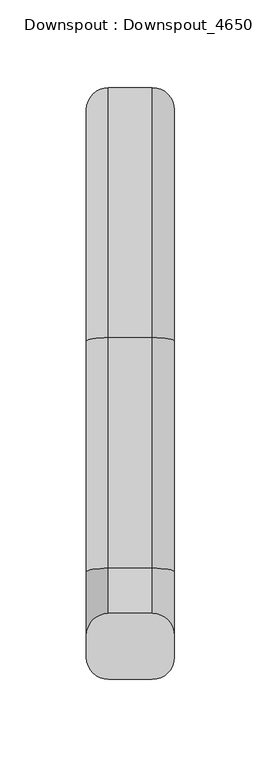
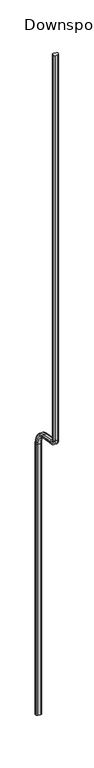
"""IFC4 building model written with IfcOpenShell, lengths in millimetres: proxy geometry, Downspout : Downspout_4650."""

from ifc_helpers import new_model, si_unit, point, frame, origin, place, context, project, spatial, polyline, circle_curve, ellipse_curve, trimmed, source, transform, mapped, element, save
from ifc_brep_helpers import plane_surface, cylinder_surface, revolved_surface, advanced_brep


def downspout_downspout_4650_cdd577da(model_context):
    return source(origin(), model_context, "Body", "AdvancedBrep", [
        advanced_brep(
        [(-12.7, -323.85, 7239.0), (12.7, -323.85, 7239.0), (25.4, -311.15, 7239.0), (25.4, -298.45, 7239.0), (12.7, -285.75, 7239.0), (-12.7, -285.75, 7239.0), (-25.4, -298.45, 7239.0), (-25.4, -311.15, 7239.0), (-12.7, -323.85, 3119.3010696), (12.7, -323.85, 3119.3010696), (25.4, -311.15, 3119.3010696), (25.4, -262.9402297, 3062.8546809), (25.4, -129.5527464, 3041.728179), (25.4, -6.35, 2897.4762969), (25.4, -6.35, 0.0), (25.4, 6.35, 0.0), (25.4, 6.35, 2897.4762969), (25.4, -127.5660287, 3054.271821), (25.4, -260.953512, 3075.3983229), (25.4, -298.45, 3119.3010696), (12.7, -285.75, 3119.3010696), (-12.7, -285.75, 3119.3010696), (-25.4, -298.45, 3119.3010696), (-25.4, -260.953512, 3075.3983229), (-25.4, -127.5660287, 3054.271821), (-25.4, 6.35, 2897.4762969), (-25.4, 6.35, 0.0), (-25.4, -6.35, 0.0), (-25.4, -6.35, 2897.4762969), (-25.4, -129.5527464, 3041.728179), (-25.4, -262.9402297, 3062.8546809), (-25.4, -311.15, 3119.3010696), (12.7, -264.9269474, 3050.311039), (-12.7, -264.9269474, 3050.311039), (12.7, -258.9667943, 3087.9419648), (-12.7, -258.9667943, 3087.9419648), (-12.7, -131.5394641, 3029.1845371), (12.7, -131.5394641, 3029.1845371), (12.7, -125.579311, 3066.8154629), (-12.7, -125.579311, 3066.8154629), (12.7, -19.05, 2897.4762969), (-12.7, -19.05, 2897.4762969), (12.7, 19.05, 2897.4762969), (-12.7, 19.05, 2897.4762969), (-12.7, -19.05, 0.0), (-12.7, 19.05, 0.0), (12.7, 19.05, 0.0), (12.7, -19.05, 0.0)],
        [
            (0, 1),
            (1, 2, circle_curve(frame((12.7, -311.15, 7239.0), z_axis=(0.0, 0.0, 1.0), x_axis=(1.0, 0.0, 0.0)), 12.7)),
            (2, 3),
            (3, 4, circle_curve(frame((12.7, -298.45, 7239.0), z_axis=(0.0, 0.0, 1.0), x_axis=(1.0, 0.0, 0.0)), 12.7)),
            (4, 5),
            (5, 6, circle_curve(frame((-12.7, -298.45, 7239.0), z_axis=(0.0, 0.0, 1.0), x_axis=(1.0, 0.0, 0.0)), 12.7)),
            (6, 7),
            (7, 0, circle_curve(frame((-12.7, -311.15, 7239.0), z_axis=(0.0, 0.0, 1.0), x_axis=(1.0, 0.0, 0.0)), 12.7)),
            (0, 8),
            (8, 9),
            (9, 1),
            (9, 10, circle_curve(frame((12.7, -311.15, 3119.3010696), z_axis=(0.0, 0.0, 1.0), x_axis=(1.0, 0.0, 0.0)), 12.7)),
            (10, 2),
            (10, 11, circle_curve(frame((25.4, -254.0, 3119.3010696), z_axis=(1.0, 0.0, 0.0), x_axis=(0.0, -1.0, 0.0)), 57.15)),
            (11, 12),
            (12, 13, circle_curve(frame((25.4, -152.4, 2897.4762969), z_axis=(-1.0, 0.0, 0.0), x_axis=(0.0, 0.15643446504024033, 0.9876883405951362)), 146.05)),
            (13, 14),
            (14, 15),
            (15, 16),
            (16, 17, circle_curve(frame((25.4, -152.4, 2897.4762969), z_axis=(1.0, 0.0, 0.0), x_axis=(0.0, 0.15643446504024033, 0.9876883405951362)), 158.75)),
            (17, 18),
            (18, 19, circle_curve(frame((25.4, -254.0, 3119.3010696), z_axis=(-1.0, 0.0, 0.0), x_axis=(0.0, -1.0, 0.0)), 44.45)),
            (19, 3),
            (19, 20, circle_curve(frame((12.7, -298.45, 3119.3010696), z_axis=(0.0, 0.0, 1.0), x_axis=(1.0, 0.0, 0.0)), 12.7)),
            (20, 4),
            (20, 21),
            (21, 5),
            (21, 22, circle_curve(frame((-12.7, -298.45, 3119.3010696), z_axis=(0.0, 0.0, 1.0), x_axis=(1.0, 0.0, 0.0)), 12.7)),
            (22, 6),
            (22, 23, circle_curve(frame((-25.4, -254.0, 3119.3010696), z_axis=(1.0, 0.0, 0.0), x_axis=(0.0, -1.0, 0.0)), 44.45)),
            (23, 24),
            (24, 25, circle_curve(frame((-25.4, -152.4, 2897.4762969), z_axis=(-1.0, 0.0, 0.0), x_axis=(0.0, 0.15643446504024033, 0.9876883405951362)), 158.75)),
            (25, 26),
            (26, 27),
            (27, 28),
            (28, 29, circle_curve(frame((-25.4, -152.4, 2897.4762969), z_axis=(1.0, 0.0, 0.0), x_axis=(0.0, 0.15643446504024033, 0.9876883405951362)), 146.05)),
            (29, 30),
            (30, 31, circle_curve(frame((-25.4, -254.0, 3119.3010696), z_axis=(-1.0, 0.0, 0.0), x_axis=(0.0, -1.0, 0.0)), 57.15)),
            (31, 7),
            (31, 8, circle_curve(frame((-12.7, -311.15, 3119.3010696), z_axis=(0.0, 0.0, 1.0), x_axis=(1.0, 0.0, 0.0)), 12.7)),
            (32, 9, circle_curve(frame((12.7, -254.0, 3119.3010696), z_axis=(-1.0, 0.0, 0.0), x_axis=(0.0, -1.0, 0.0)), 69.85)),
            (8, 33, circle_curve(frame((-12.7, -254.0, 3119.3010696), z_axis=(1.0, 0.0, 0.0), x_axis=(0.0, -1.0, 0.0)), 69.85)),
            (33, 32),
            (32, 11, circle_curve(frame((12.7, -262.9402297, 3062.8546809), z_axis=(0.0, -0.9876883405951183, 0.15643446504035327), x_axis=(1.0, 0.0, 0.0)), 12.7)),
            (34, 20, circle_curve(frame((12.7, -254.0, 3119.3010696), z_axis=(-1.0, 0.0, 0.0), x_axis=(0.0, -1.0, 0.0)), 31.75)),
            (18, 34, circle_curve(frame((12.7, -260.953512, 3075.3983229), z_axis=(0.0, -0.9876883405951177, 0.15643446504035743), x_axis=(1.0, 0.0, 0.0)), 12.7)),
            (35, 21, circle_curve(frame((-12.7, -254.0, 3119.3010696), z_axis=(-1.0, 0.0, 0.0), x_axis=(0.0, -1.0, 0.0)), 31.75)),
            (34, 35),
            (35, 23, circle_curve(frame((-12.7, -260.953512, 3075.3983229), z_axis=(0.0, -0.987688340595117, 0.1564344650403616), x_axis=(1.0, 0.0, 0.0)), 12.7)),
            (30, 33, circle_curve(frame((-12.7, -262.9402297, 3062.8546809), z_axis=(0.0, -0.987688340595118, 0.15643446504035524), x_axis=(1.0, 0.0, 0.0)), 12.7)),
            (33, 36),
            (36, 37),
            (37, 32),
            (37, 12, circle_curve(frame((12.7, -129.5527464, 3041.728179), z_axis=(0.0, -0.9876883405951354, 0.15643446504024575), x_axis=(1.0, 0.0, 0.0)), 12.7)),
            (17, 38, circle_curve(frame((12.7, -127.5660287, 3054.271821), z_axis=(0.0, -0.9876883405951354, 0.15643446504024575), x_axis=(1.0, 0.0, 0.0)), 12.7)),
            (38, 34),
            (38, 39),
            (39, 35),
            (39, 24, circle_curve(frame((-12.7, -127.5660287, 3054.271821), z_axis=(0.0, -0.9876883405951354, 0.15643446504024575), x_axis=(1.0, 0.0, 0.0)), 12.7)),
            (29, 36, circle_curve(frame((-12.7, -129.5527464, 3041.728179), z_axis=(0.0, -0.9876883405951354, 0.15643446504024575), x_axis=(1.0, 0.0, 0.0)), 12.7)),
            (40, 37, circle_curve(frame((12.7, -152.4, 2897.4762969), z_axis=(1.0, 0.0, 0.0), x_axis=(0.0, 0.15643446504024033, 0.9876883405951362)), 133.35)),
            (36, 41, circle_curve(frame((-12.7, -152.4, 2897.4762969), z_axis=(-1.0, 0.0, 0.0), x_axis=(0.0, 0.15643446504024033, 0.9876883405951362)), 133.35)),
            (41, 40),
            (40, 13, circle_curve(frame((12.7, -6.35, 2897.4762969), z_axis=(0.0, 0.0, 1.0), x_axis=(1.0, 0.0, 0.0)), 12.7)),
            (42, 38, circle_curve(frame((12.7, -152.4, 2897.4762969), z_axis=(1.0, 0.0, 0.0), x_axis=(0.0, 0.15643446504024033, 0.9876883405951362)), 171.45)),
            (16, 42, circle_curve(frame((12.7, 6.35, 2897.4762969), z_axis=(0.0, 0.0, 1.0), x_axis=(1.0, 0.0, 0.0)), 12.7)),
            (43, 39, circle_curve(frame((-12.7, -152.4, 2897.4762969), z_axis=(1.0, 0.0, 0.0), x_axis=(0.0, 0.15643446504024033, 0.9876883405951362)), 171.45)),
            (42, 43),
            (43, 25, circle_curve(frame((-12.7, 6.35, 2897.4762969), z_axis=(0.0, 0.0, 1.0), x_axis=(1.0, 0.0, 0.0)), 12.7)),
            (28, 41, circle_curve(frame((-12.7, -6.35, 2897.4762969), z_axis=(0.0, 0.0, 1.0), x_axis=(1.0, 0.0, 0.0)), 12.7)),
            (44, 27, circle_curve(frame((-12.7, -6.35, 0.0), z_axis=(0.0, 0.0, -1.0), x_axis=(1.0, 0.0, 0.0)), 12.7)),
            (26, 45, circle_curve(frame((-12.7, 6.35, 0.0), z_axis=(0.0, 0.0, -1.0), x_axis=(1.0, 0.0, 0.0)), 12.7)),
            (45, 46),
            (46, 15, circle_curve(frame((12.7, 6.35, 0.0), z_axis=(0.0, 0.0, -1.0), x_axis=(1.0, 0.0, 0.0)), 12.7)),
            (14, 47, circle_curve(frame((12.7, -6.35, 0.0), z_axis=(0.0, 0.0, -1.0), x_axis=(1.0, 0.0, 0.0)), 12.7)),
            (47, 44),
            (41, 44),
            (47, 40),
            (46, 42),
            (45, 43),
        ],
        [
            plane_surface(frame((0.0, -304.8, 7239.0), z_axis=(0.0, 0.0, 1.0), x_axis=(1.0, 0.0, 0.0))),
            plane_surface(frame((-12.7, -323.85, 7239.0), z_axis=(0.0, -1.0, 0.0), x_axis=(0.0, 0.0, -1.0))),
            cylinder_surface(frame((12.7, -311.15, 7239.0), z_axis=(0.0, 0.0, 1.0), x_axis=(1.0, 0.0, 0.0)), 12.7),
            plane_surface(frame((25.4, -311.15, 7239.0), z_axis=(1.0, 0.0, 0.0), x_axis=(0.0, 0.0, -1.0))),
            cylinder_surface(frame((12.7, -298.45, 7239.0), z_axis=(0.0, 0.0, 1.0), x_axis=(1.0, 0.0, 0.0)), 12.7),
            plane_surface(frame((12.7, -285.75, 7239.0), z_axis=(0.0, 1.0, 0.0), x_axis=(0.0, 0.0, -1.0))),
            cylinder_surface(frame((-12.7, -298.45, 7239.0), z_axis=(0.0, 0.0, 1.0), x_axis=(1.0, 0.0, 0.0)), 12.7),
            plane_surface(frame((-25.4, -298.45, 7239.0), z_axis=(-1.0, 0.0, 0.0), x_axis=(0.0, 0.0, -1.0))),
            cylinder_surface(frame((-12.7, -311.15, 7239.0), z_axis=(0.0, 0.0, 1.0), x_axis=(1.0, 0.0, 0.0)), 12.7),
            cylinder_surface(frame((0.0, -254.0, 3119.3010696), z_axis=(1.0, 0.0, 0.0), x_axis=(0.0, -1.0, 0.0)), 69.85),
            revolved_surface(trimmed(ellipse_curve(frame((12.7, -311.15, 3119.3010696), z_axis=(0.0, 0.0, 1.0), x_axis=(1.0, 0.0, 0.0)), 12.7, 12.7), [point((12.7, -323.85, 3119.3010696))], [point((25.4, -311.15, 3119.3010696))], True, "CARTESIAN"), (0.0, -254.0, 3119.3010696), (1.0, 0.0, 0.0)),
            revolved_surface(trimmed(ellipse_curve(frame((12.7, -298.45, 3119.3010696), z_axis=(0.0, 0.0, 1.0), x_axis=(1.0, 0.0, 0.0)), 12.7, 12.7), [point((25.4, -298.45, 3119.3010696))], [point((12.7, -285.75, 3119.3010696))], True, "CARTESIAN"), (0.0, -254.0, 3119.3010696), (1.0, 0.0, 0.0)),
            revolved_surface(polyline([(12.7, -285.75, 3119.3010696), (-12.7, -285.75, 3119.3010696)]), (0.0, -254.0, 3119.3010696), (1.0, 0.0, 0.0)),
            revolved_surface(trimmed(ellipse_curve(frame((-12.7, -298.45, 3119.3010696), z_axis=(0.0, 0.0, 1.0), x_axis=(1.0, 0.0, 0.0)), 12.7, 12.7), [point((-12.7, -285.75, 3119.3010696))], [point((-25.4, -298.45, 3119.3010696))], True, "CARTESIAN"), (0.0, -254.0, 3119.3010696), (1.0, 0.0, 0.0)),
            revolved_surface(trimmed(ellipse_curve(frame((-12.7, -311.15, 3119.3010696), z_axis=(0.0, 0.0, 1.0), x_axis=(1.0, 0.0, 0.0)), 12.7, 12.7), [point((-25.4, -311.15, 3119.3010696))], [point((-12.7, -323.85, 3119.3010696))], True, "CARTESIAN"), (0.0, -254.0, 3119.3010696), (1.0, 0.0, 0.0)),
            plane_surface(frame((-12.7, -264.9269474, 3050.311039), z_axis=(0.0, -0.156434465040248, -0.9876883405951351), x_axis=(0.0, 0.9876883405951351, -0.156434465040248))),
            cylinder_surface(frame((12.7, -262.9402297, 3062.8546809), z_axis=(0.0, -0.9876883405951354, 0.15643446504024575), x_axis=(1.0, 0.0, 0.0)), 12.7),
            cylinder_surface(frame((12.7, -260.953512, 3075.3983229), z_axis=(0.0, -0.9876883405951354, 0.15643446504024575), x_axis=(1.0, 0.0, 0.0)), 12.7),
            plane_surface(frame((12.7, -258.9667943, 3087.9419648), z_axis=(0.0, 0.1564344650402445, 0.9876883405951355), x_axis=(0.0, 0.9876883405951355, -0.1564344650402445))),
            cylinder_surface(frame((-12.7, -260.953512, 3075.3983229), z_axis=(0.0, -0.9876883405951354, 0.15643446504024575), x_axis=(1.0, 0.0, 0.0)), 12.7),
            cylinder_surface(frame((-12.7, -262.9402297, 3062.8546809), z_axis=(0.0, -0.9876883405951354, 0.15643446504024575), x_axis=(1.0, 0.0, 0.0)), 12.7),
            revolved_surface(polyline([(-12.7, -131.53946408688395, 3029.1845371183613), (12.7, -131.53946408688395, 3029.1845371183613)]), (0.0, -152.4, 2897.4762969), (-1.0, 0.0, 0.0)),
            revolved_surface(trimmed(ellipse_curve(frame((12.7, -129.5527464, 3041.728179), z_axis=(0.0, -0.9876883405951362, 0.1564344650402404), x_axis=(1.0, 0.0, 0.0)), 12.7, 12.7), [point((12.7, -131.5394641, 3029.1845371))], [point((25.4, -129.5527464, 3041.728179))], True, "CARTESIAN"), (0.0, -152.4, 2897.4762969), (-1.0, 0.0, 0.0)),
            revolved_surface(trimmed(ellipse_curve(frame((12.7, -127.5660287, 3054.271821), z_axis=(0.0, -0.9876883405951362, 0.1564344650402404), x_axis=(1.0, 0.0, 0.0)), 12.7, 12.7), [point((25.4, -127.5660287, 3054.271821))], [point((12.7, -125.579311, 3066.8154629))], True, "CARTESIAN"), (0.0, -152.4, 2897.4762969), (-1.0, 0.0, 0.0)),
            cylinder_surface(frame((0.0, -152.4, 2897.4762969), z_axis=(-1.0, 0.0, 0.0), x_axis=(0.0, 0.15643446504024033, 0.9876883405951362)), 171.45),
            revolved_surface(trimmed(ellipse_curve(frame((-12.7, -127.5660287, 3054.271821), z_axis=(0.0, -0.9876883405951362, 0.1564344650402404), x_axis=(1.0, 0.0, 0.0)), 12.7, 12.7), [point((-12.7, -125.579311, 3066.8154629))], [point((-25.4, -127.5660287, 3054.271821))], True, "CARTESIAN"), (0.0, -152.4, 2897.4762969), (-1.0, 0.0, 0.0)),
            revolved_surface(trimmed(ellipse_curve(frame((-12.7, -129.5527464, 3041.728179), z_axis=(0.0, -0.9876883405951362, 0.1564344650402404), x_axis=(1.0, 0.0, 0.0)), 12.7, 12.7), [point((-25.4, -129.5527464, 3041.728179))], [point((-12.7, -131.5394641, 3029.1845371))], True, "CARTESIAN"), (0.0, -152.4, 2897.4762969), (-1.0, 0.0, 0.0)),
            plane_surface(frame((0.0, 0.0, 0.0), z_axis=(0.0, 0.0, -1.0), x_axis=(1.0, 0.0, 0.0))),
            plane_surface(frame((-12.7, -19.05, 2897.4762969), z_axis=(0.0, -1.0, 0.0), x_axis=(0.0, 0.0, -1.0))),
            cylinder_surface(frame((12.7, -6.35, 2897.4762969), z_axis=(0.0, 0.0, 1.0), x_axis=(1.0, 0.0, 0.0)), 12.7),
            cylinder_surface(frame((12.7, 6.35, 2897.4762969), z_axis=(0.0, 0.0, 1.0), x_axis=(1.0, 0.0, 0.0)), 12.7),
            plane_surface(frame((12.7, 19.05, 2897.4762969), z_axis=(0.0, 1.0, 0.0), x_axis=(0.0, 0.0, -1.0))),
            cylinder_surface(frame((-12.7, 6.35, 2897.4762969), z_axis=(0.0, 0.0, 1.0), x_axis=(1.0, 0.0, 0.0)), 12.7),
            cylinder_surface(frame((-12.7, -6.35, 2897.4762969), z_axis=(0.0, 0.0, 1.0), x_axis=(1.0, 0.0, 0.0)), 12.7),
        ],
        [
            (0, [[1, 2, 3, 4, 5, 6, 7, 8]]),
            (1, [[-1, 9, 10, 11]]),
            (2, [[-2, -11, 12, 13]]),
            (3, [[-3, -13, 14, 15, 16, 17, 18, 19, 20, 21, 22, 23]]),
            (4, [[-4, -23, 24, 25]]),
            (5, [[-5, -25, 26, 27]]),
            (6, [[-6, -27, 28, 29]]),
            (7, [[-7, -29, 30, 31, 32, 33, 34, 35, 36, 37, 38, 39]]),
            (8, [[-8, -39, 40, -9]]),
            (9, [[41, -10, 42, 43]]),
            (10, [[-14, -12, -41, 44]]),
            (11, [[45, -24, -22, 46]]),
            (12, [[47, -26, -45, 48]]),
            (13, [[-30, -28, -47, 49]]),
            (14, [[-42, -40, -38, 50]]),
            (15, [[-43, 51, 52, 53]]),
            (16, [[-44, -53, 54, -15]]),
            (17, [[-46, -21, 55, 56]]),
            (18, [[-48, -56, 57, 58]]),
            (19, [[-49, -58, 59, -31]]),
            (20, [[-50, -37, 60, -51]]),
            (21, [[61, -52, 62, 63]]),
            (22, [[-16, -54, -61, 64]]),
            (23, [[65, -55, -20, 66]]),
            (24, [[67, -57, -65, 68]]),
            (25, [[-32, -59, -67, 69]]),
            (26, [[-62, -60, -36, 70]]),
            (27, [[71, -34, 72, 73, 74, -18, 75, 76]]),
            (28, [[-63, 77, -76, 78]]),
            (29, [[-64, -78, -75, -17]]),
            (30, [[-66, -19, -74, 79]]),
            (31, [[-68, -79, -73, 80]]),
            (32, [[-69, -80, -72, -33]]),
            (33, [[-70, -35, -71, -77]]),
        ],
    ),
    ])


if __name__ == "__main__":
    model = new_model("IFC4")
    model_context = context("Model", 3, world=origin())
    ifc_project = project(units=[si_unit("LENGTHUNIT", "METRE", prefix="MILLI")], contexts=[model_context])
    site = spatial("IfcSite", under=ifc_project)
    building = spatial("IfcBuilding", under=site)
    placement = place(None, origin())
    downspout_downspout_4650_shape = downspout_downspout_4650_cdd577da(model_context)
    element("IfcBuildingElementProxy", 1, Name="Downspout : Downspout_4650", ObjectType="Downspout : Downspout_4650", at=placement, inside=building, context=model_context, shape_type="MappedRepresentation", body=[
        mapped(downspout_downspout_4650_shape, transform((0.0, 0.0, 0.0), x_axis=(1.0, 0.0, 0.0), y_axis=(0.0, 1.0, 0.0), z_axis=(0.0, 0.0, 1.0))),
    ])
    save(model, "model.ifc")
